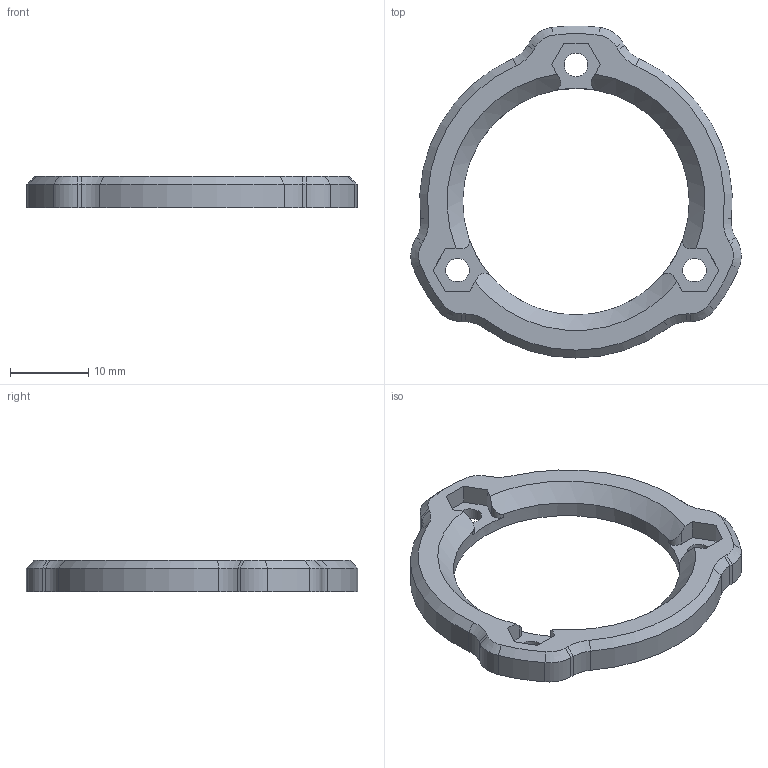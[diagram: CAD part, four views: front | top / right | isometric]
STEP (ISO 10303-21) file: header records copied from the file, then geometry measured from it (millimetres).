
FILE_DESCRIPTION(/* description */ ('CAx-IF Rec.Pracs.---Representation and Presentation of Product Manufacturing Information (PMI)---4.0---2014-10-13','CAx-IF Rec.Pracs.---3D Tessellated Geometry---0.4---2014-09-14','2;1'),/* implementation_level */ '2;1');
FILE_NAME(/* name */ 'qc1_p67',/* time_stamp */ '2026-07-26T03:31:24+03:00',/* author */ (''),/* organization */ (''),/* preprocessor_version */ 'ST-DEVELOPER v19.4',/* originating_system */ 'SIEMENS PLM Software NX2306.1700',/* authorisation */ $);
FILE_SCHEMA (('AP242_MANAGED_MODEL_BASED_3D_ENGINEERING_MIM_LF { 1 0 10303 442 3 1 4 }'));
Length unit declared in the file: millimetre
Products named in the file (1): qc1_p67
Bounding box: 42.27 x 42.48 x 4 mm (x, y, z)
Volume: 2274.5 mm3; surface area: 2181.9 mm2
Topology: 1 solids, 1 shells, 81 faces, 216 edges, 137 vertices
Faces by surface type: plane 32, cylinder 28, cone 21
Full cylindrical faces by diameter (mm): 3.01 x3, 29 x1
Entity records: 2518 total; most frequent: CARTESIAN_POINT 465, DIRECTION 436, ORIENTED_EDGE 416, EDGE_CURVE 208, AXIS2_PLACEMENT_3D 158, VERTEX_POINT 133, LINE 120, VECTOR 120
